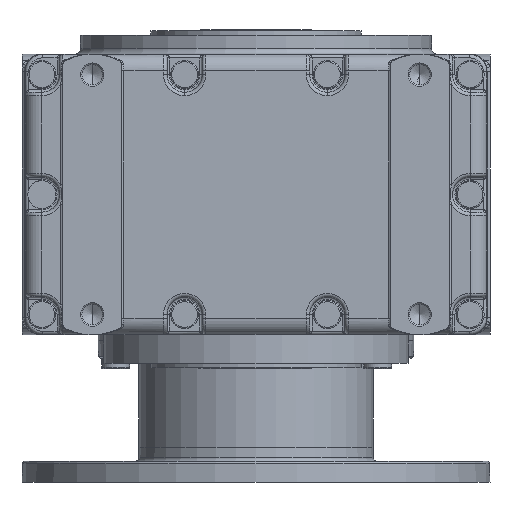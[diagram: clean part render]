
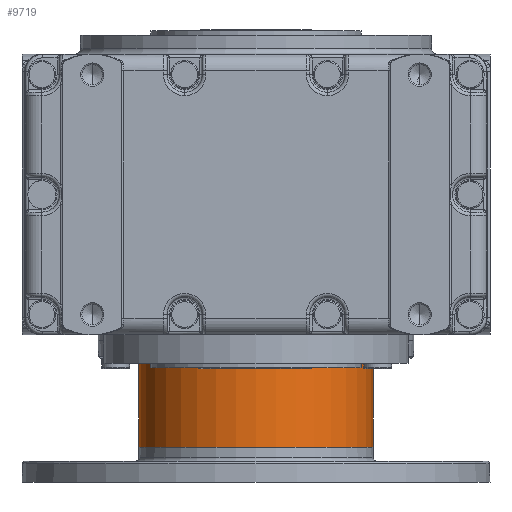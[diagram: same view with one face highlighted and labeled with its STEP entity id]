
A CAD part, front view. The second image highlights one B-rep face of the part: STEP entity #9719.
In plain terms, the highlighted cylindrical face has radius 100 mm (diameter 200 mm), a partial arc.
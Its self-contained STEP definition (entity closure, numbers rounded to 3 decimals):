
#1270 = EDGE_CURVE ( 'NONE', #2395, #2474, #13043, .T. ) ;
#2393 = EDGE_CURVE ( 'NONE', #2418, #2474, #95193, .T. ) ;
#2394 = EDGE_CURVE ( 'NONE', #2416, #2395, #95184, .T. ) ;
#2395 = VERTEX_POINT ( 'NONE', #95176 ) ;
#2416 = VERTEX_POINT ( 'NONE', #95253 ) ;
#2418 = VERTEX_POINT ( 'NONE', #95248 ) ;
#2474 = VERTEX_POINT ( 'NONE', #95565 ) ;
#9719 = ADVANCED_FACE ( 'NONE', ( #130903 ), #130902, .T. ) ;
#9720 = EDGE_LOOP ( 'NONE', ( #9721, #9722, #9724, #9725 ) ) ;
#9721 = ORIENTED_EDGE ( 'NONE', *, *, #2394, .F. ) ;
#9722 = ORIENTED_EDGE ( 'NONE', *, *, #9723, .T. ) ;
#9723 = EDGE_CURVE ( 'NONE', #2416, #2418, #130896, .T. ) ;
#9724 = ORIENTED_EDGE ( 'NONE', *, *, #2393, .T. ) ;
#9725 = ORIENTED_EDGE ( 'NONE', *, *, #1270, .F. ) ;
#13039 = DIRECTION ( 'NONE',  ( 1., 0., 0. ) ) ;
#13040 = DIRECTION ( 'NONE',  ( 0., 0., 1. ) ) ;
#13041 = CARTESIAN_POINT ( 'NONE',  ( 0., 285., -20. ) ) ;
#13042 = AXIS2_PLACEMENT_3D ( 'NONE', #13041, #13040, #13039 ) ;
#13043 = CIRCLE ( 'NONE', #13042, 100. ) ;
#95176 = CARTESIAN_POINT ( 'NONE',  ( -100., 285., -20. ) ) ;
#95179 = DIRECTION ( 'NONE',  ( 0., 0., 1. ) ) ;
#95180 = VECTOR ( 'NONE', #95179, 1000. ) ;
#95182 = CARTESIAN_POINT ( 'NONE',  ( -100., 285., 0. ) ) ;
#95184 = LINE ( 'NONE', #95182, #95180 ) ;
#95189 = DIRECTION ( 'NONE',  ( 0., 0., 1. ) ) ;
#95191 = VECTOR ( 'NONE', #95189, 1000. ) ;
#95192 = CARTESIAN_POINT ( 'NONE',  ( 100., 285., 0. ) ) ;
#95193 = LINE ( 'NONE', #95192, #95191 ) ;
#95248 = CARTESIAN_POINT ( 'NONE',  ( 100., 285., -96. ) ) ;
#95253 = CARTESIAN_POINT ( 'NONE',  ( -100., 285., -96. ) ) ;
#95565 = CARTESIAN_POINT ( 'NONE',  ( 100., 285., -20. ) ) ;
#130893 = DIRECTION ( 'NONE',  ( 1., 0., 0. ) ) ;
#130894 = DIRECTION ( 'NONE',  ( 0., 0., 1. ) ) ;
#130895 = AXIS2_PLACEMENT_3D ( 'NONE', #130900, #130894, #130893 ) ;
#130896 = CIRCLE ( 'NONE', #130895, 100. ) ;
#130897 = DIRECTION ( 'NONE',  ( 1., 0., 0. ) ) ;
#130898 = DIRECTION ( 'NONE',  ( 0., 0., 1. ) ) ;
#130899 = AXIS2_PLACEMENT_3D ( 'NONE', #130901, #130898, #130897 ) ;
#130900 = CARTESIAN_POINT ( 'NONE',  ( 0., 285., -96. ) ) ;
#130901 = CARTESIAN_POINT ( 'NONE',  ( 0., 285., 0. ) ) ;
#130902 = CYLINDRICAL_SURFACE ( 'NONE', #130899, 100. ) ;
#130903 = FACE_OUTER_BOUND ( 'NONE', #9720, .T. ) ;
